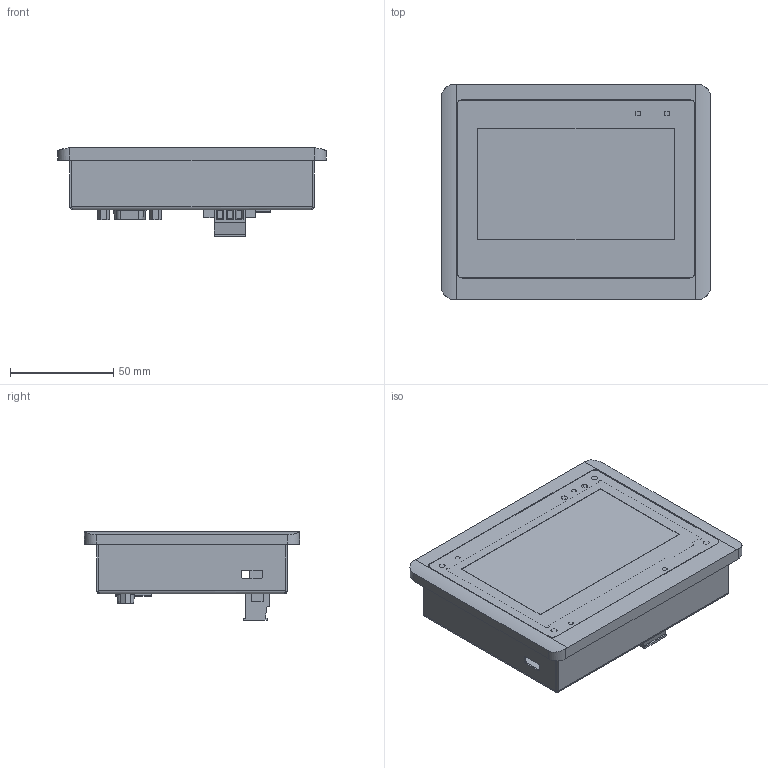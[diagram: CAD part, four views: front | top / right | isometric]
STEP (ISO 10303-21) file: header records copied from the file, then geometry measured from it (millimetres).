
FILE_DESCRIPTION((''),'2;1');
FILE_NAME('FE4043E-ASM_ASM_3_ASM','2018-08-08T',('weixf'),(''),'PRO/ENGINEER BY PARAMETRIC TECHNOLOGY CORPORATION, 2010280','PRO/ENGINEER BY PARAMETRIC TECHNOLOGY CORPORATION, 2010280','');
FILE_SCHEMA(('CONFIG_CONTROL_DESIGN','SHAPE_APPEARANCE_LAYERS_GROUPS'));
Length unit declared in the file: millimetre
Products named in the file (12): TOP-COVER_AF0_3; BACK-COVER_AF0_3; DB-9-MALE_3_3; USB-HOST_3_3; USB-SLAVE_3_AF0_3; TLPHW-200-3PIN_3_3; JITE-PTB750B-09-1-03-3_3_3; ASM0001_ASM_3_AF0_ASM_3_ASM; RJ45-LED_3; BOARD-ASM_AF0_ASM_3_ASM; FILM_AF0_3; FE4043E-ASM_ASM_3_ASM
Assembly tree (11 placements, depth 4):
  FE4043E-ASM_ASM_3_ASM
    TOP-COVER_AF0_3
    BACK-COVER_AF0_3
    BOARD-ASM_AF0_ASM_3_ASM
      ASM0001_ASM_3_AF0_ASM_3_ASM
        DB-9-MALE_3_3
        USB-HOST_3_3
        USB-SLAVE_3_AF0_3
        TLPHW-200-3PIN_3_3
        JITE-PTB750B-09-1-03-3_3_3
      RJ45-LED_3
    FILM_AF0_3
Bounding box: 130 x 104 x 42.8 mm (x, y, z)
Volume: 67243.3 mm3; surface area: 98277.1 mm2
Topology: 9 solids, 17 shells, 978 faces, 2476 edges, 1596 vertices
Faces by surface type: plane 520, cylinder 376, bspline 44, cone 18, torus 12, sphere 8
Entity records: 32608 total; most frequent: CARTESIAN_POINT 6578, DIRECTION 5222, ORIENTED_EDGE 4904, EDGE_CURVE 2468, AXIS2_PLACEMENT_3D 1838, VERTEX_POINT 1596, VECTOR 1546, LINE 1546
